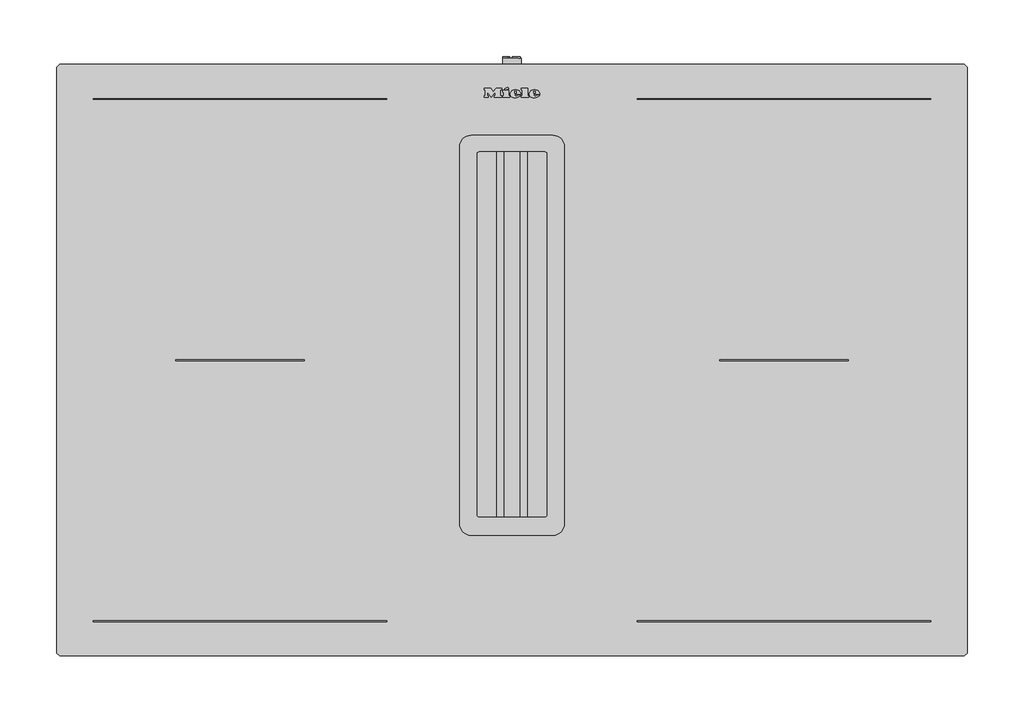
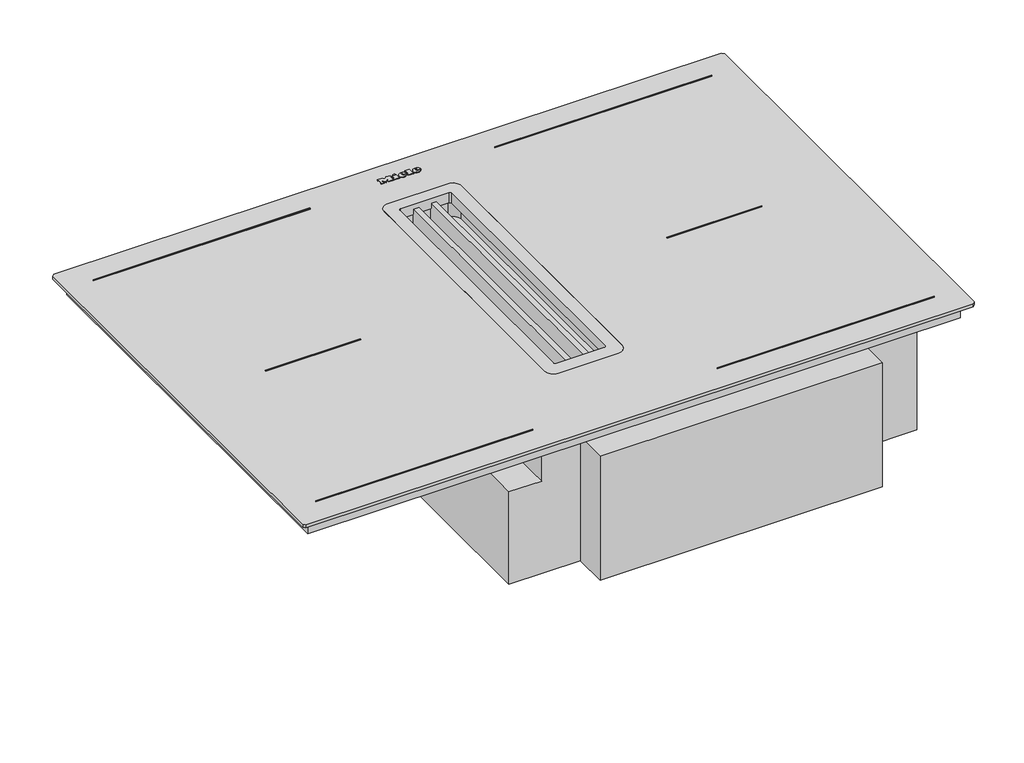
# Not in any storey: 1 proxy.
"""IFC4 building model written with IfcOpenShell, lengths in millimetres."""

from ifc_helpers import new_model, si_unit, origin, place, context, project, spatial, transform, mapped, element, save
from components import specialty_equipment_94e3bbb6

model = new_model("IFC4")

# Units and contexts
model_context = context("Model", 3, world=origin())
ifc_project = project(units=[si_unit("LENGTHUNIT", "METRE", prefix="MILLI")], contexts=[model_context])

# Site, building
site = spatial("IfcSite", under=ifc_project)
building = spatial("IfcBuilding", under=site)

# Proxy
placement = place(None, origin())
specialty_equipment_shape = specialty_equipment_94e3bbb6(model_context)
element("IfcBuildingElementProxy", 1, Name="12904890_BNI_KMDA7876-1FL : 26787675_BNI_12904890_KMDA7876-1FL", ObjectType="12904890_BNI_KMDA7876-1FL : 26787675_BNI_12904890_KMDA7876-1FL", at=placement, inside=building, context=model_context, shape_type="MappedRepresentation", body=[
    mapped(specialty_equipment_shape, transform((0.0, 0.0, 0.0), x_axis=(1.0, 0.0, 0.0), y_axis=(0.0, 1.0, 0.0), z_axis=(0.0, 0.0, 1.0))),
])

save(model, "model.ifc")
